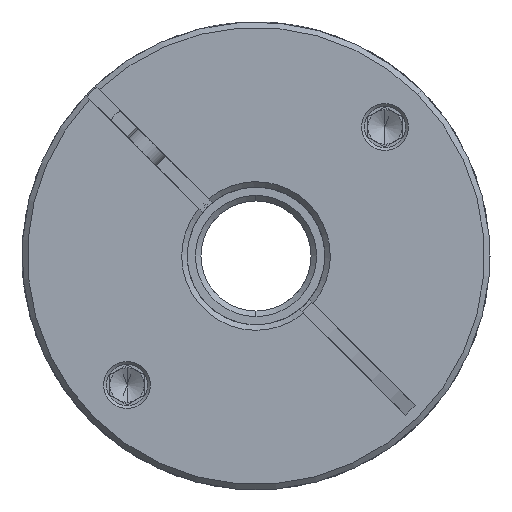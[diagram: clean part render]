
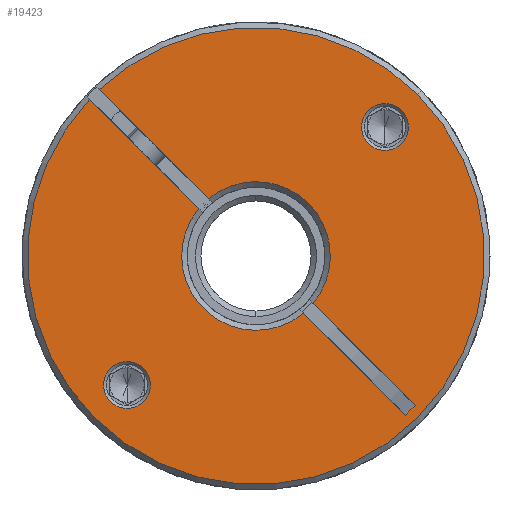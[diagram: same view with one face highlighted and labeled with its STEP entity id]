
A CAD part, front view. The second image highlights one B-rep face of the part: STEP entity #19423.
In plain terms, the highlighted planar face has unit normal (0, -1, 0).
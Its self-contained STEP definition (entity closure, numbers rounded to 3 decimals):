
#78 = AXIS2_PLACEMENT_3D ( 'NONE', #21109, #2898, #16124 ) ;
#122 = VECTOR ( 'NONE', #17734, 1000. ) ;
#214 = ORIENTED_EDGE ( 'NONE', *, *, #11577, .T. ) ;
#411 = ORIENTED_EDGE ( 'NONE', *, *, #3631, .T. ) ;
#1255 = EDGE_CURVE ( 'NONE', #20843, #1883, #20927, .T. ) ;
#1427 = VECTOR ( 'NONE', #7473, 1000. ) ;
#1452 = LINE ( 'NONE', #16031, #1427 ) ;
#1578 = CARTESIAN_POINT ( 'NONE',  ( -2.735, -67.045, 68. ) ) ;
#1654 = EDGE_LOOP ( 'NONE', ( #1994, #7569 ) ) ;
#1883 = VERTEX_POINT ( 'NONE', #14132 ) ;
#1994 = ORIENTED_EDGE ( 'NONE', *, *, #3004, .T. ) ;
#2153 = EDGE_CURVE ( 'NONE', #9329, #13048, #11462, .T. ) ;
#2249 = CARTESIAN_POINT ( 'NONE',  ( 18.988, -67.045, 44.862 ) ) ;
#2424 = CARTESIAN_POINT ( 'NONE',  ( -23.878, -67.045, 46.858 ) ) ;
#2727 = DIRECTION ( 'NONE',  ( 0., 1., 0. ) ) ;
#2879 = CARTESIAN_POINT ( 'NONE',  ( 16.003, -67.045, 86.738 ) ) ;
#2898 = DIRECTION ( 'NONE',  ( 0., 1., 0. ) ) ;
#3004 = EDGE_CURVE ( 'NONE', #7482, #17035, #18206, .T. ) ;
#3028 = EDGE_CURVE ( 'NONE', #14756, #15656, #9044, .T. ) ;
#3113 = ORIENTED_EDGE ( 'NONE', *, *, #2153, .T. ) ;
#3160 = CARTESIAN_POINT ( 'NONE',  ( 18.407, -67.045, 89.142 ) ) ;
#3211 = FACE_OUTER_BOUND ( 'NONE', #8201, .T. ) ;
#3389 = CARTESIAN_POINT ( 'NONE',  ( -2.735, -67.045, 68. ) ) ;
#3465 = EDGE_CURVE ( 'NONE', #16413, #19471, #5123, .T. ) ;
#3631 = EDGE_CURVE ( 'NONE', #8597, #3823, #16361, .T. ) ;
#3823 = VERTEX_POINT ( 'NONE', #5034 ) ;
#3869 = CARTESIAN_POINT ( 'NONE',  ( -2.735, -67.045, 68. ) ) ;
#3953 = DIRECTION ( 'NONE',  ( 0., 1., 0. ) ) ;
#4169 = EDGE_CURVE ( 'NONE', #12704, #8134, #1452, .T. ) ;
#4189 = ORIENTED_EDGE ( 'NONE', *, *, #21690, .T. ) ;
#4211 = AXIS2_PLACEMENT_3D ( 'NONE', #10845, #13931, #20684 ) ;
#4564 = CARTESIAN_POINT ( 'NONE',  ( 4.902, -67.045, 75.637 ) ) ;
#4567 = LINE ( 'NONE', #15839, #122 ) ;
#4600 = EDGE_CURVE ( 'NONE', #1883, #16413, #4567, .T. ) ;
#4649 = PLANE ( 'NONE',  #10056 ) ;
#4678 = VECTOR ( 'NONE', #4734, 1000. ) ;
#4734 = DIRECTION ( 'NONE',  ( 0.707, 0., -0.707 ) ) ;
#4879 = CIRCLE ( 'NONE', #78, 10.8 ) ;
#5034 = CARTESIAN_POINT ( 'NONE',  ( -9.632, -67.045, 76.311 ) ) ;
#5123 = LINE ( 'NONE', #2249, #14516 ) ;
#5545 = VERTEX_POINT ( 'NONE', #18147 ) ;
#6004 = ORIENTED_EDGE ( 'NONE', *, *, #8233, .T. ) ;
#6230 = AXIS2_PLACEMENT_3D ( 'NONE', #19086, #3953, #17346 ) ;
#6269 = CIRCLE ( 'NONE', #12590, 3.4 ) ;
#7012 = EDGE_CURVE ( 'NONE', #17035, #7482, #6269, .T. ) ;
#7303 = CARTESIAN_POINT ( 'NONE',  ( -19.069, -67.045, 51.666 ) ) ;
#7441 = DIRECTION ( 'NONE',  ( 0.707, 0., 0.707 ) ) ;
#7473 = DIRECTION ( 'NONE',  ( 0.707, 0., -0.707 ) ) ;
#7482 = VERTEX_POINT ( 'NONE', #7303 ) ;
#7569 = ORIENTED_EDGE ( 'NONE', *, *, #7012, .T. ) ;
#7654 = FACE_BOUND ( 'NONE', #1654, .T. ) ;
#7962 = CARTESIAN_POINT ( 'NONE',  ( -26.908, -67.045, 90.758 ) ) ;
#8134 = VERTEX_POINT ( 'NONE', #8361 ) ;
#8201 = EDGE_LOOP ( 'NONE', ( #14383, #10083, #3113, #214, #411, #12469, #18952, #8470, #14815, #17259, #6004 ) ) ;
#8233 = EDGE_CURVE ( 'NONE', #5545, #8134, #11726, .T. ) ;
#8361 = CARTESIAN_POINT ( 'NONE',  ( -11.046, -67.045, 74.897 ) ) ;
#8426 = DIRECTION ( 'NONE',  ( 0.707, 0., 0.707 ) ) ;
#8441 = CARTESIAN_POINT ( 'NONE',  ( 18.988, -67.045, 44.862 ) ) ;
#8470 = ORIENTED_EDGE ( 'NONE', *, *, #4600, .T. ) ;
#8597 = VERTEX_POINT ( 'NONE', #15415 ) ;
#8827 = DIRECTION ( 'NONE',  ( -0.707, 0., -0.707 ) ) ;
#8977 = CARTESIAN_POINT ( 'NONE',  ( 13.599, -67.045, 84.334 ) ) ;
#8999 = DIRECTION ( 'NONE',  ( 0.707, 0., 0.707 ) ) ;
#9044 = CIRCLE ( 'NONE', #6230, 3.4 ) ;
#9329 = VERTEX_POINT ( 'NONE', #13396 ) ;
#9984 = DIRECTION ( 'NONE',  ( 0.707, 0., 0.707 ) ) ;
#10020 = EDGE_CURVE ( 'NONE', #3823, #20843, #4879, .T. ) ;
#10056 = AXIS2_PLACEMENT_3D ( 'NONE', #18248, #20000, #9984 ) ;
#10083 = ORIENTED_EDGE ( 'NONE', *, *, #20713, .T. ) ;
#10347 = AXIS2_PLACEMENT_3D ( 'NONE', #2879, #2727, #21300 ) ;
#10588 = DIRECTION ( 'NONE',  ( 0., 1., 0. ) ) ;
#10845 = CARTESIAN_POINT ( 'NONE',  ( -2.735, -67.045, 68. ) ) ;
#10974 = AXIS2_PLACEMENT_3D ( 'NONE', #3869, #10588, #7441 ) ;
#11132 = AXIS2_PLACEMENT_3D ( 'NONE', #20720, #14100, #8999 ) ;
#11283 = AXIS2_PLACEMENT_3D ( 'NONE', #1578, #13263, #14953 ) ;
#11462 = CIRCLE ( 'NONE', #11283, 33.2 ) ;
#11577 = EDGE_CURVE ( 'NONE', #13048, #8597, #17621, .T. ) ;
#11726 = CIRCLE ( 'NONE', #12753, 10.8 ) ;
#11987 = LINE ( 'NONE', #20241, #4678 ) ;
#12469 = ORIENTED_EDGE ( 'NONE', *, *, #10020, .T. ) ;
#12590 = AXIS2_PLACEMENT_3D ( 'NONE', #13165, #14993, #16536 ) ;
#12704 = VERTEX_POINT ( 'NONE', #7962 ) ;
#12753 = AXIS2_PLACEMENT_3D ( 'NONE', #18696, #17110, #15642 ) ;
#12831 = CARTESIAN_POINT ( 'NONE',  ( -2.028, -67.045, 68.707 ) ) ;
#13048 = VERTEX_POINT ( 'NONE', #21586 ) ;
#13165 = CARTESIAN_POINT ( 'NONE',  ( -21.473, -67.045, 49.262 ) ) ;
#13263 = DIRECTION ( 'NONE',  ( 0., -1., 0. ) ) ;
#13396 = CARTESIAN_POINT ( 'NONE',  ( -26.211, -67.045, 44.524 ) ) ;
#13931 = DIRECTION ( 'NONE',  ( 0., -1., 0. ) ) ;
#14100 = DIRECTION ( 'NONE',  ( 0., 1., 0. ) ) ;
#14132 = CARTESIAN_POINT ( 'NONE',  ( 5.576, -67.045, 61.103 ) ) ;
#14383 = ORIENTED_EDGE ( 'NONE', *, *, #4169, .F. ) ;
#14516 = VECTOR ( 'NONE', #8827, 1000. ) ;
#14756 = VERTEX_POINT ( 'NONE', #3160 ) ;
#14815 = ORIENTED_EDGE ( 'NONE', *, *, #3465, .T. ) ;
#14953 = DIRECTION ( 'NONE',  ( 0.707, 0., 0.707 ) ) ;
#14993 = DIRECTION ( 'NONE',  ( 0., 1., 0. ) ) ;
#15415 = CARTESIAN_POINT ( 'NONE',  ( -25.493, -67.045, 92.172 ) ) ;
#15642 = DIRECTION ( 'NONE',  ( 0.707, 0., 0.707 ) ) ;
#15656 = VERTEX_POINT ( 'NONE', #8977 ) ;
#15839 = CARTESIAN_POINT ( 'NONE',  ( -2.028, -67.045, 68.707 ) ) ;
#15949 = EDGE_LOOP ( 'NONE', ( #16191, #4189 ) ) ;
#16031 = CARTESIAN_POINT ( 'NONE',  ( -3.442, -67.045, 67.293 ) ) ;
#16124 = DIRECTION ( 'NONE',  ( 0.707, 0., 0.707 ) ) ;
#16191 = ORIENTED_EDGE ( 'NONE', *, *, #3028, .T. ) ;
#16361 = LINE ( 'NONE', #12831, #20290 ) ;
#16413 = VERTEX_POINT ( 'NONE', #19822 ) ;
#16536 = DIRECTION ( 'NONE',  ( 0.707, 0., 0.707 ) ) ;
#16768 = DIRECTION ( 'NONE',  ( 0., -1., 0. ) ) ;
#17035 = VERTEX_POINT ( 'NONE', #2424 ) ;
#17083 = FACE_BOUND ( 'NONE', #15949, .T. ) ;
#17110 = DIRECTION ( 'NONE',  ( 0., 1., 0. ) ) ;
#17259 = ORIENTED_EDGE ( 'NONE', *, *, #21348, .F. ) ;
#17346 = DIRECTION ( 'NONE',  ( 0.707, 0., 0.707 ) ) ;
#17621 = CIRCLE ( 'NONE', #20289, 33.2 ) ;
#17734 = DIRECTION ( 'NONE',  ( 0.707, 0., -0.707 ) ) ;
#17736 = CIRCLE ( 'NONE', #10347, 3.4 ) ;
#17781 = CIRCLE ( 'NONE', #4211, 33.2 ) ;
#18147 = CARTESIAN_POINT ( 'NONE',  ( 4.162, -67.045, 59.689 ) ) ;
#18206 = CIRCLE ( 'NONE', #11132, 3.4 ) ;
#18248 = CARTESIAN_POINT ( 'NONE',  ( -2.735, -67.045, 68. ) ) ;
#18696 = CARTESIAN_POINT ( 'NONE',  ( -2.735, -67.045, 68. ) ) ;
#18952 = ORIENTED_EDGE ( 'NONE', *, *, #1255, .T. ) ;
#19086 = CARTESIAN_POINT ( 'NONE',  ( 16.003, -67.045, 86.738 ) ) ;
#19423 = ADVANCED_FACE ( 'NONE', ( #17083, #7654, #3211 ), #4649, .T. ) ;
#19471 = VERTEX_POINT ( 'NONE', #8441 ) ;
#19643 = DIRECTION ( 'NONE',  ( 0.707, 0., -0.707 ) ) ;
#19822 = CARTESIAN_POINT ( 'NONE',  ( 20.402, -67.045, 46.277 ) ) ;
#20000 = DIRECTION ( 'NONE',  ( 0., -1., 0. ) ) ;
#20241 = CARTESIAN_POINT ( 'NONE',  ( -3.442, -67.045, 67.293 ) ) ;
#20289 = AXIS2_PLACEMENT_3D ( 'NONE', #3389, #16768, #8426 ) ;
#20290 = VECTOR ( 'NONE', #19643, 1000. ) ;
#20684 = DIRECTION ( 'NONE',  ( 0.707, 0., 0.707 ) ) ;
#20713 = EDGE_CURVE ( 'NONE', #12704, #9329, #17781, .T. ) ;
#20720 = CARTESIAN_POINT ( 'NONE',  ( -21.473, -67.045, 49.262 ) ) ;
#20843 = VERTEX_POINT ( 'NONE', #4564 ) ;
#20927 = CIRCLE ( 'NONE', #10974, 10.8 ) ;
#21109 = CARTESIAN_POINT ( 'NONE',  ( -2.735, -67.045, 68. ) ) ;
#21300 = DIRECTION ( 'NONE',  ( 0.707, 0., 0.707 ) ) ;
#21348 = EDGE_CURVE ( 'NONE', #5545, #19471, #11987, .T. ) ;
#21586 = CARTESIAN_POINT ( 'NONE',  ( 20.741, -67.045, 91.476 ) ) ;
#21690 = EDGE_CURVE ( 'NONE', #15656, #14756, #17736, .T. ) ;
